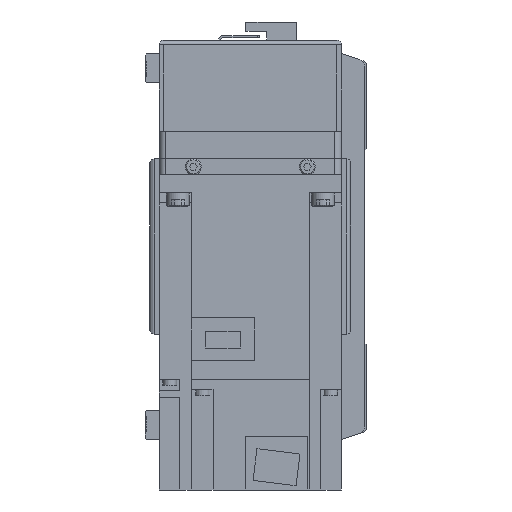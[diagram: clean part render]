
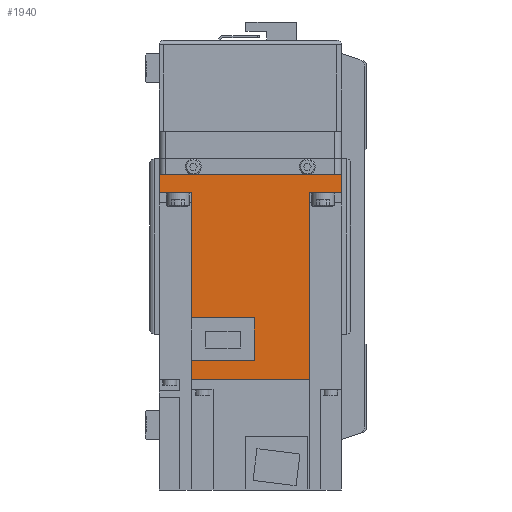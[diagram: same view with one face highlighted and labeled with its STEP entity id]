
A CAD part, left-side view. The second image highlights one B-rep face of the part: STEP entity #1940.
In plain terms, the highlighted planar face has unit normal (-1, 0, 0) as drawn and (1, 0, 0) by its records, which use the part's own axes.
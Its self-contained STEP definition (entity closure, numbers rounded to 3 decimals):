
#1940 = ADVANCED_FACE( '', ( #4554 ), #4555, .F. );
#4554 = FACE_OUTER_BOUND( '', #7986, .T. );
#4555 = PLANE( '', #7987 );
#7986 = EDGE_LOOP( '', ( #13480, #13481, #13482, #13483, #13484, #13485, #13486, #13487, #13488, #13489, #13490, #13491 ) );
#7987 = AXIS2_PLACEMENT_3D( '', #13492, #13493, #13494 );
#13480 = ORIENTED_EDGE( '', *, *, #21296, .F. );
#13481 = ORIENTED_EDGE( '', *, *, #21297, .F. );
#13482 = ORIENTED_EDGE( '', *, *, #20411, .F. );
#13483 = ORIENTED_EDGE( '', *, *, #21298, .T. );
#13484 = ORIENTED_EDGE( '', *, *, #19524, .F. );
#13485 = ORIENTED_EDGE( '', *, *, #21299, .T. );
#13486 = ORIENTED_EDGE( '', *, *, #21300, .T. );
#13487 = ORIENTED_EDGE( '', *, *, #21301, .F. );
#13488 = ORIENTED_EDGE( '', *, *, #21302, .F. );
#13489 = ORIENTED_EDGE( '', *, *, #21303, .F. );
#13490 = ORIENTED_EDGE( '', *, *, #19548, .F. );
#13491 = ORIENTED_EDGE( '', *, *, #20897, .F. );
#13492 = CARTESIAN_POINT( '', ( 40., 89.8, 40. ) );
#13493 = DIRECTION( '', ( -1., 0., 0. ) );
#13494 = DIRECTION( '', ( 0., 0., 1. ) );
#19524 = EDGE_CURVE( '', #23178, #23180, #23181, .T. );
#19548 = EDGE_CURVE( '', #23222, #23223, #23224, .T. );
#20411 = EDGE_CURVE( '', #24741, #24737, #24743, .T. );
#20897 = EDGE_CURVE( '', #25530, #23222, #25531, .T. );
#21296 = EDGE_CURVE( '', #24278, #25530, #26146, .T. );
#21297 = EDGE_CURVE( '', #24737, #24278, #26147, .T. );
#21298 = EDGE_CURVE( '', #24741, #23180, #26148, .T. );
#21299 = EDGE_CURVE( '', #23178, #26149, #26150, .T. );
#21300 = EDGE_CURVE( '', #26149, #26151, #26152, .T. );
#21301 = EDGE_CURVE( '', #26153, #26151, #26154, .T. );
#21302 = EDGE_CURVE( '', #26155, #26153, #26156, .T. );
#21303 = EDGE_CURVE( '', #23223, #26155, #26157, .T. );
#23178 = VERTEX_POINT( '', #28551 );
#23180 = VERTEX_POINT( '', #28554 );
#23181 = LINE( '', #28555, #28556 );
#23222 = VERTEX_POINT( '', #28632 );
#23223 = VERTEX_POINT( '', #28633 );
#23224 = LINE( '', #28634, #28635 );
#24278 = VERTEX_POINT( '', #30306 );
#24737 = VERTEX_POINT( '', #30930 );
#24741 = VERTEX_POINT( '', #30936 );
#24743 = LINE( '', #30939, #30940 );
#25530 = VERTEX_POINT( '', #32163 );
#25531 = LINE( '', #32164, #32165 );
#26146 = LINE( '', #33036, #33037 );
#26147 = LINE( '', #33038, #33039 );
#26148 = LINE( '', #33040, #33041 );
#26149 = VERTEX_POINT( '', #33042 );
#26150 = LINE( '', #33043, #33044 );
#26151 = VERTEX_POINT( '', #33045 );
#26152 = LINE( '', #33046, #33047 );
#26153 = VERTEX_POINT( '', #33048 );
#26154 = LINE( '', #33049, #33050 );
#26155 = VERTEX_POINT( '', #33051 );
#26156 = LINE( '', #33052, #33053 );
#26157 = LINE( '', #33054, #33055 );
#28551 = CARTESIAN_POINT( '', ( 40., 8., 40. ) );
#28554 = CARTESIAN_POINT( '', ( 40., 8., 25.95 ) );
#28555 = CARTESIAN_POINT( '', ( 40., 8., 40. ) );
#28556 = VECTOR( '', #36505, 1000. );
#28632 = CARTESIAN_POINT( '', ( 40., 62.8, 1.8 ) );
#28633 = CARTESIAN_POINT( '', ( 40., 62.8, -25.95 ) );
#28634 = CARTESIAN_POINT( '', ( 40., 62.8, 1.8 ) );
#28635 = VECTOR( '', #36528, 1000. );
#30306 = CARTESIAN_POINT( '', ( 40., 81.4, -25.95 ) );
#30930 = CARTESIAN_POINT( '', ( 40., 89.8, -25.95 ) );
#30936 = CARTESIAN_POINT( '', ( 40., 89.8, 25.95 ) );
#30939 = CARTESIAN_POINT( '', ( 40., 89.8, 40. ) );
#30940 = VECTOR( '', #37627, 1000. );
#32163 = CARTESIAN_POINT( '', ( 40., 81.4, 1.8 ) );
#32164 = CARTESIAN_POINT( '', ( 40., 81.4, 1.8 ) );
#32165 = VECTOR( '', #38272, 1000. );
#33036 = CARTESIAN_POINT( '', ( 40., 81.4, -26. ) );
#33037 = VECTOR( '', #38787, 1000. );
#33038 = CARTESIAN_POINT( '', ( 40., 158., -25.95 ) );
#33039 = VECTOR( '', #38788, 1000. );
#33040 = CARTESIAN_POINT( '', ( 40., 158., 25.95 ) );
#33041 = VECTOR( '', #38789, 1000. );
#33042 = CARTESIAN_POINT( '', ( 40., 0., 40. ) );
#33043 = CARTESIAN_POINT( '', ( 40., 89.8, 40. ) );
#33044 = VECTOR( '', #38790, 1000. );
#33045 = CARTESIAN_POINT( '', ( 40., 0., -40. ) );
#33046 = CARTESIAN_POINT( '', ( 40., 0., 40. ) );
#33047 = VECTOR( '', #38791, 1000. );
#33048 = CARTESIAN_POINT( '', ( 40., 8., -40. ) );
#33049 = CARTESIAN_POINT( '', ( 40., 89.8, -40. ) );
#33050 = VECTOR( '', #38792, 1000. );
#33051 = CARTESIAN_POINT( '', ( 40., 8., -25.95 ) );
#33052 = CARTESIAN_POINT( '', ( 40., 8., 40. ) );
#33053 = VECTOR( '', #38793, 1000. );
#33054 = CARTESIAN_POINT( '', ( 40., 158., -25.95 ) );
#33055 = VECTOR( '', #38794, 1000. );
#36505 = DIRECTION( '', ( 0., 0., -1. ) );
#36528 = DIRECTION( '', ( 0., 0., -1. ) );
#37627 = DIRECTION( '', ( 0., 0., -1. ) );
#38272 = DIRECTION( '', ( 0., -1., 0. ) );
#38787 = DIRECTION( '', ( 0., 0., 1. ) );
#38788 = DIRECTION( '', ( 0., -1., 0. ) );
#38789 = DIRECTION( '', ( 0., -1., 0. ) );
#38790 = DIRECTION( '', ( 0., -1., 0. ) );
#38791 = DIRECTION( '', ( 0., 0., -1. ) );
#38792 = DIRECTION( '', ( 0., -1., 0. ) );
#38793 = DIRECTION( '', ( 0., 0., -1. ) );
#38794 = DIRECTION( '', ( 0., -1., 0. ) );
